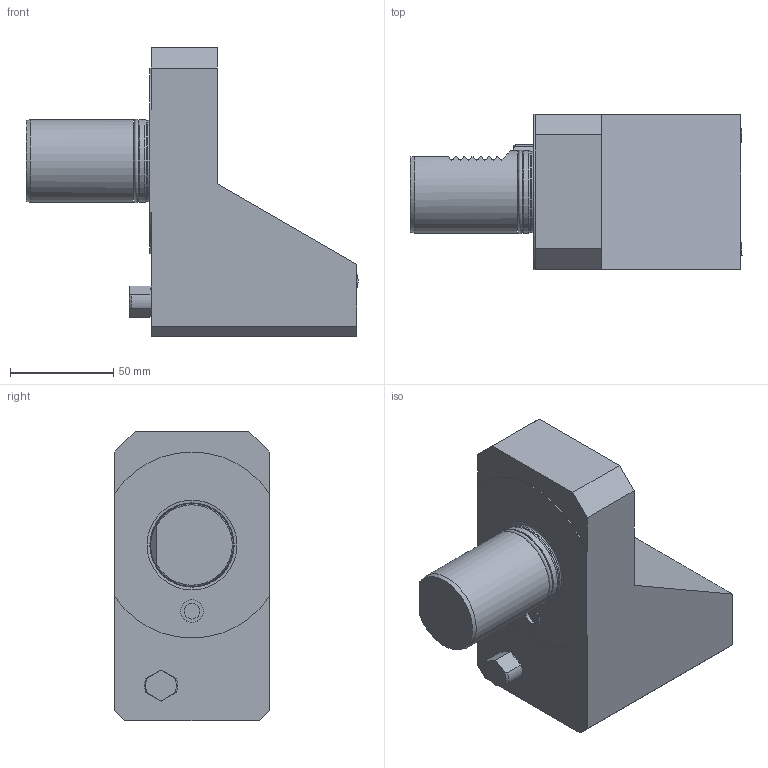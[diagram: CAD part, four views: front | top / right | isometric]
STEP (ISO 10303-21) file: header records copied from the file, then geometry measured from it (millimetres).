
FILE_DESCRIPTION(/* description */ (''),/* implementation_level */ '2;1');
FILE_NAME(/* name */ '117997',/* time_stamp */ '2020-11-16T14:22:37+01:00',/* author */ (''),/* organization */ (''),/* preprocessor_version */ 'ST-DEVELOPER v16.5',/* originating_system */ 'HiCAD 2017 2201.0 Build 268',/* authorisation */ '');
FILE_SCHEMA (('AUTOMOTIVE_DESIGN { 1 0 10303 214 1 1 1 1 }'));
Length unit declared in the file: millimetre
Products named in the file (27): Root; Leeres Teil; 113942_O-Ring 36x2_330*; 173501_Kantsealring 7.65x1.68_331*; 197277_SPRITZDUESE TIKT M12X1-M6_350*; DIN 13-M12x1; KUGEL_0; DIN 13-M6; TORUS_0; 001_000X_130*; ЁȆ; 00021672_120*; DIN 13-M12; ROTATIONSTEIL_0_110*; ZYLINDER_1_100*; DIN 76-M12x1
Assembly tree (26 placements, depth 7):
  Root
    Leeres Teil
      Leeres Teil
        113942_O-Ring 36x2_330*
        173501_Kantsealring 7.65x1.68_331*
        Leeres Teil
          197277_SPRITZDUESE TIKT M12X1-M6_350*
            DIN 13-M12x1
            KUGEL_0
              DIN 13-M6
            TORUS_0
          197277_SPRITZDUESE TIKT M12X1-M6_350*
            DIN 13-M12x1
            KUGEL_0
              DIN 13-M6
            TORUS_0
      Leeres Teil
        001_000X_130*
          (unnamed)
        001_000X_130*
          ЁȆ
        00021672_120*
        001_000X_130*
          DIN 13-M12
      ROTATIONSTEIL_0_110*
      ZYLINDER_1_100*
        DIN 76-M12x1
Bounding box: 160.66 x 75 x 140 mm (x, y, z)
Volume: 634806.4 mm3; surface area: 74898.2 mm2
Topology: 24 solids, 24 shells, 264 faces, 653 edges, 432 vertices
Faces by surface type: plane 170, cylinder 47, cone 35, torus 8, sphere 4
Full cylindrical faces by diameter (mm): 5 x2, 6 x4, 7.65 x1, 9.6 x3, 9.92 x2, 11 x8, 11.01 x1, 11.1 x1, 12 x6, 36.5 x1, 39.4 x1, 40 x2
Entity records: 16365 total; most frequent: CARTESIAN_POINT 4019, DIRECTION 1472, PRESENTATION_STYLE_ASSIGNMENT 1155, COLOUR_RGB 1135, DRAUGHTING_PRE_DEFINED_CURVE_FONT 1134, CURVE_STYLE 1134, OVER_RIDING_STYLED_ITEM 1134, ORIENTED_EDGE 1134
